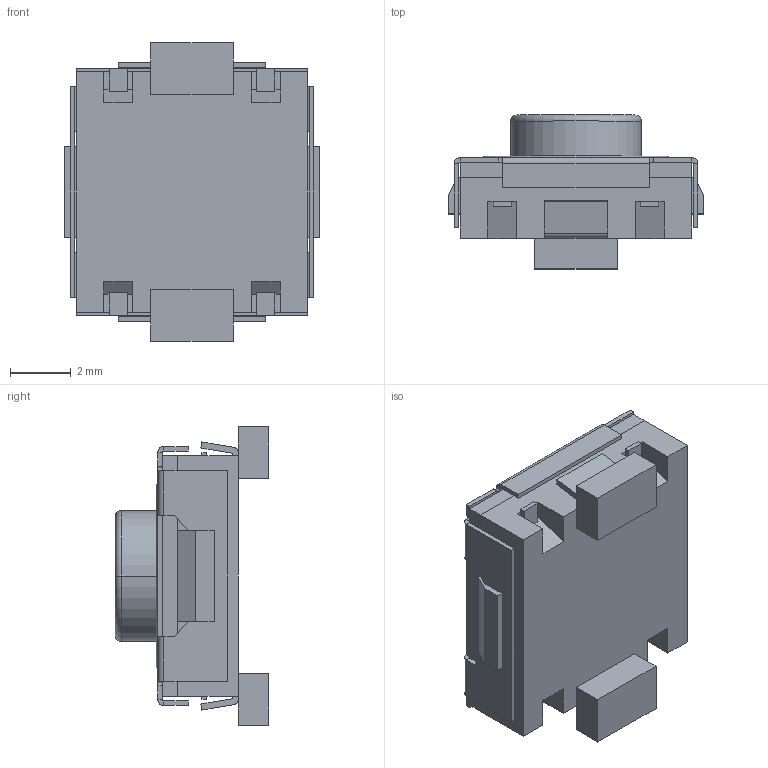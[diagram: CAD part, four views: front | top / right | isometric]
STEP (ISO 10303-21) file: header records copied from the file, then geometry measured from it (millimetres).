
FILE_DESCRIPTION((''),'2;1');
FILE_NAME('JQH8585FP-M0406-01BG-1-109_ASM','2026-05-25T10:21:17',('Admin'),(''),'CREO PARAMETRIC BY PTC INC, 2019224','CREO PARAMETRIC BY PTC INC, 2019224','');
FILE_SCHEMA(('AUTOMOTIVE_DESIGN { 1 0 10303 214 1 1 1 1 }'));
Length unit declared in the file: millimetre
Products named in the file (5): JQH8585FP-M0406-01BG-1-109_01; JQH8585FP-M0406-01BG-1-109_02; JQH8585FP-M0406-01BG-1-109_03; JQH8585FP-M0406-01BG-1-109_04; JQH8585FP-M0406-01BG-1-109_ASM
Assembly tree (4 placements, depth 2):
  JQH8585FP-M0406-01BG-1-109_ASM
    JQH8585FP-M0406-01BG-1-109_01
    JQH8585FP-M0406-01BG-1-109_02
    JQH8585FP-M0406-01BG-1-109_03
    JQH8585FP-M0406-01BG-1-109_04
Bounding box: 8.4 x 5.05 x 9.8 mm (x, y, z)
Volume: 176.8 mm3; surface area: 543.6 mm2
Topology: 5 solids, 5 shells, 181 faces, 480 edges, 314 vertices
Faces by surface type: plane 151, cylinder 26, torus 4
Entity records: 7233 total; most frequent: CARTESIAN_POINT 980, DIRECTION 952, ORIENTED_EDGE 916, EDGE_CURVE 458, VECTOR 410, LINE 410, PRESENTATION_STYLE_ASSIGNMENT 335, STYLED_ITEM 292
